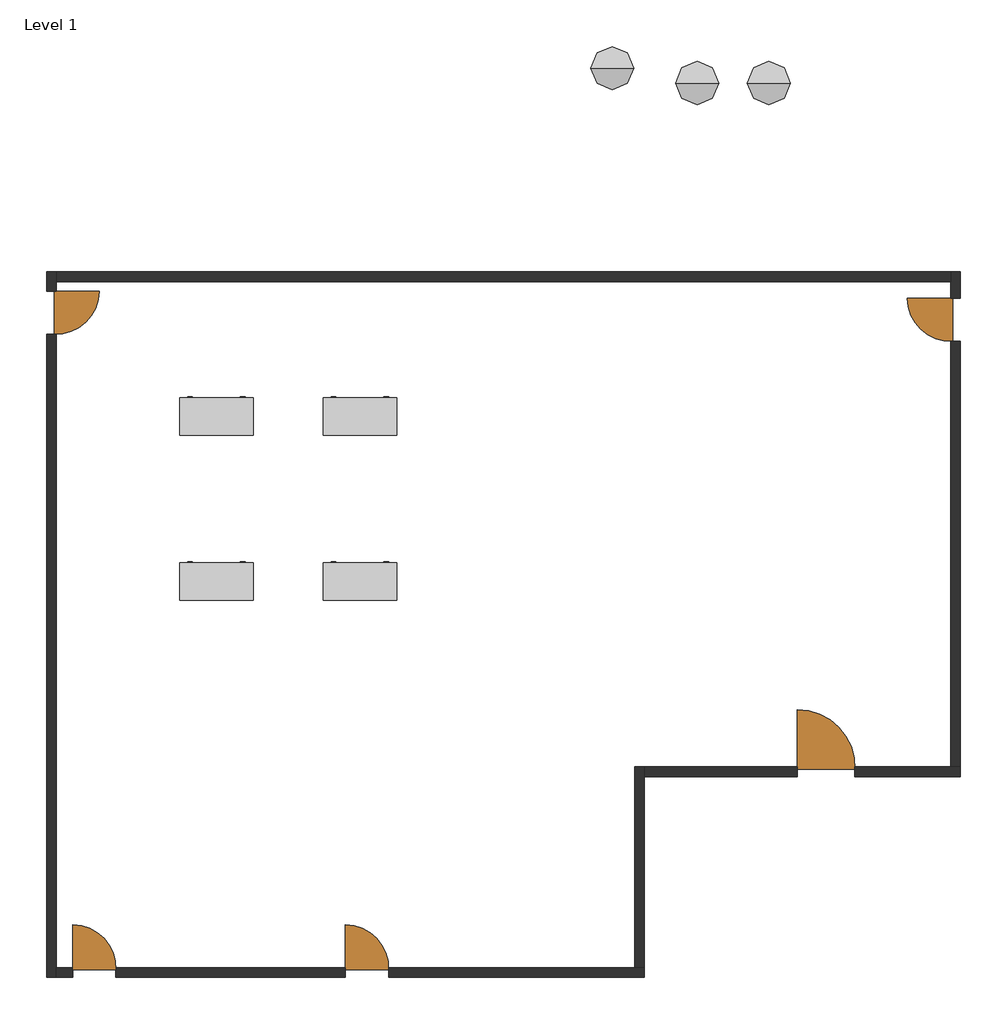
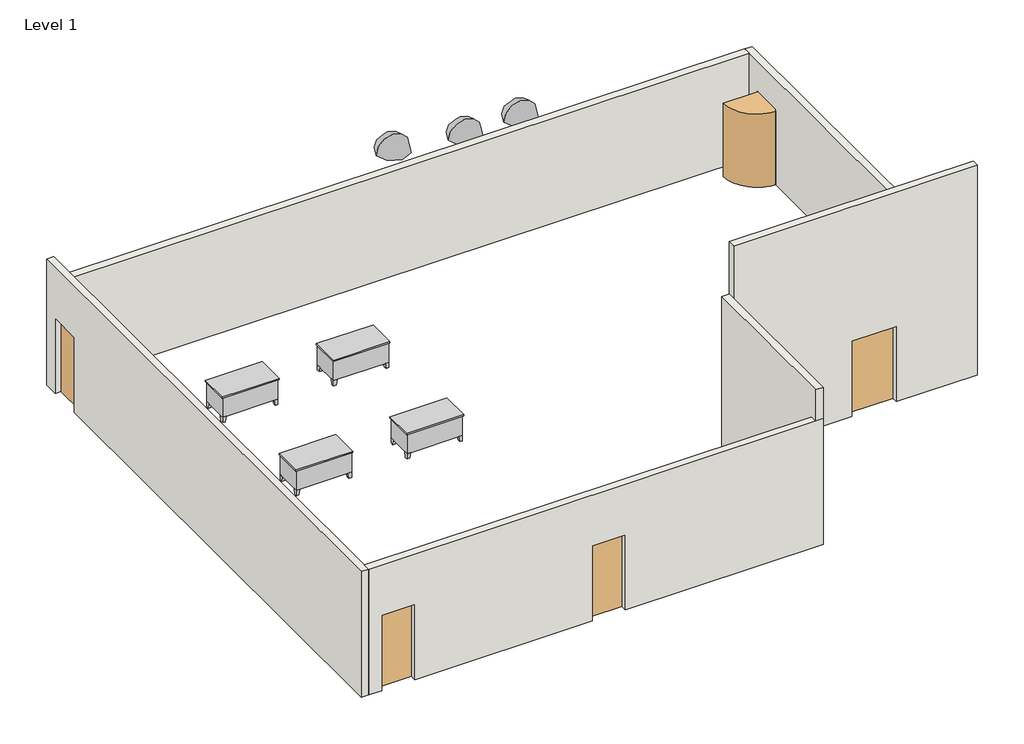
# One storey: 10 doors, 6 walls, 4 furniture elements, 3 geographic elements.
"""IFC4 building model written with IfcOpenShell, lengths in millimetres."""

import ifcopenshell
import ifcopenshell.guid

model = None  # the IFC model being written
_history = None  # IfcOwnerHistory: only IFC2X3 demands one
_inside = {}  # id of a spatial element -> (the spatial element, [elements in it])
_under = {}  # id of a project, library or spatial element -> (it, [spatial elements below it])
_declared = {}  # id of a project -> (the project, [libraries it declares])
_typed = {}  # id of a type object -> (the type object, [elements of that type])
_made_of = {}  # id of a material, layer set ... -> (it, [elements and type objects made of it])


def new_model(schema):
    """Start an empty IFC model of exactly this schema.

    Asked for "IFC4X3", IfcOpenShell would pick the latest addendum, in which some entities
    have other attributes; the version numbers below select the first issue.
    IFC2X3 requires an IfcOwnerHistory on every rooted entity: one is made here for all.
    """
    global model, _history
    if schema == "IFC4X3":
        model = ifcopenshell.file(schema_version=(4, 3, 0, 0))
    else:
        model = ifcopenshell.file(schema=schema)
    _inside.clear()
    _under.clear()
    _declared.clear()
    _typed.clear()
    _made_of.clear()
    _history = None
    if model.schema == "IFC2X3":
        org = make("IfcOrganization", Name="unknown")
        user = make(
            "IfcPersonAndOrganization",
            ThePerson=make("IfcPerson", FamilyName="unknown"),
            TheOrganization=org,
        )
        app = make(
            "IfcApplication",
            ApplicationDeveloper=org,
            Version="unknown",
            ApplicationFullName="unknown",
            ApplicationIdentifier="unknown",
        )
        _history = make(
            "IfcOwnerHistory",
            OwningUser=user,
            OwningApplication=app,
            ChangeAction="ADDED",
            CreationDate=0,
        )
    return model


def make(cls, **values):
    """One entity of the class cls with the attributes given. An attribute that is None is left unset."""
    return model.create_entity(
        cls, **{name: value for name, value in values.items() if value is not None}
    )


def rooted(cls, **values):
    """An entity with a GlobalId (a new one), such as an element, a storey or a relation."""
    return make(cls, GlobalId=ifcopenshell.guid.new(), OwnerHistory=_history, **values)


def si_unit(unit_type, name, prefix=None):
    """IfcSIUnit, for example si_unit("LENGTHUNIT", "METRE", prefix="MILLI")."""
    return make("IfcSIUnit", UnitType=unit_type, Prefix=prefix, Name=name)


def assignment(units):
    """IfcUnitAssignment: the units of a project."""
    return None if units is None else make("IfcUnitAssignment", Units=units)


def point(xyz):
    """IfcCartesianPoint."""
    return None if xyz is None else make("IfcCartesianPoint", Coordinates=xyz)


def direction(xyz):
    """IfcDirection."""
    return None if xyz is None else make("IfcDirection", DirectionRatios=xyz)


def frame(location, z_axis=None, x_axis=None):
    """IfcAxis2Placement3D, a coordinate frame: its origin and axes. An axis left out is left unset."""
    return make(
        "IfcAxis2Placement3D",
        Location=point(location),
        Axis=direction(z_axis),
        RefDirection=direction(x_axis),
    )


def frame_2d(location, x_axis=None):
    """IfcAxis2Placement2D, a coordinate frame in the plane: its origin and x axis."""
    return make(
        "IfcAxis2Placement2D", Location=point(location), RefDirection=direction(x_axis)
    )


def origin():
    """The frame at (0, 0, 0) with its axes left unset."""
    return frame((0.0, 0.0, 0.0))


def origin_with_axes():
    """The frame at (0, 0, 0) with the z axis (0, 0, 1) and the x axis (1, 0, 0) written out."""
    return frame((0.0, 0.0, 0.0), z_axis=(0.0, 0.0, 1.0), x_axis=(1.0, 0.0, 0.0))


def place(relative_to, where):
    """IfcLocalPlacement: puts the frame where relative to a parent placement (None: the world)."""
    return make(
        "IfcLocalPlacement", PlacementRelTo=relative_to, RelativePlacement=where
    )


def context(
    kind, dimensions, precision=None, world=None, true_north=None, identifier=None
):
    """IfcGeometricRepresentationContext, for example the 3D "Model" context."""
    return make(
        "IfcGeometricRepresentationContext",
        ContextIdentifier=identifier,
        ContextType=kind,
        CoordinateSpaceDimension=dimensions,
        Precision=precision,
        WorldCoordinateSystem=world,
        TrueNorth=true_north,
    )


def project(units=None, contexts=None):
    """IfcProject with its units and contexts."""
    return rooted(
        "IfcProject",
        Name="project",
        RepresentationContexts=contexts,
        UnitsInContext=assignment(units),
    )


def spatial(cls, under=None, at=None, **own):
    """A site, building, storey or space (cls), placed at a placement, below another one or the project."""
    s = rooted(cls, ObjectPlacement=at, **own)
    if under is not None:
        _under.setdefault(under.id(), (under, []))[1].append(s)
    return s


def polyline(points):
    """IfcPolyline through the points."""
    return make("IfcPolyline", Points=[point(p) for p in points])


def circle_curve(where, radius):
    """IfcCircle in the frame where."""
    return make("IfcCircle", Position=where, Radius=radius)


def ellipse_curve(where, semi_axis1, semi_axis2):
    """IfcEllipse in the frame where."""
    return make(
        "IfcEllipse", Position=where, SemiAxis1=semi_axis1, SemiAxis2=semi_axis2
    )


def trimmed(basis, trim1, trim2, sense, master):
    """IfcTrimmedCurve: the piece of a basis curve between two trims."""
    return make(
        "IfcTrimmedCurve",
        BasisCurve=basis,
        Trim1=trim1,
        Trim2=trim2,
        SenseAgreement=sense,
        MasterRepresentation=master,
    )


def segment(curve, same_sense, transition):
    """IfcCompositeCurveSegment."""
    return make(
        "IfcCompositeCurveSegment",
        Transition=transition,
        SameSense=same_sense,
        ParentCurve=curve,
    )


def composite_curve(segments, self_intersect=None):
    """IfcCompositeCurve: segments joined end to end."""
    return make("IfcCompositeCurve", Segments=segments, SelfIntersect=self_intersect)


def outline(outer, holes=None, kind="AREA"):
    """IfcArbitraryClosedProfileDef: a profile drawn as a closed curve; with holes, ...WithVoids."""
    if holes is None:
        return make("IfcArbitraryClosedProfileDef", ProfileType=kind, OuterCurve=outer)
    return make(
        "IfcArbitraryProfileDefWithVoids",
        ProfileType=kind,
        OuterCurve=outer,
        InnerCurves=holes,
    )


def extrude(swept, where, along, depth):
    """IfcExtrudedAreaSolid: the profile swept, set in the frame where, extruded along a direction by depth."""
    return make(
        "IfcExtrudedAreaSolid",
        SweptArea=swept,
        Position=where,
        ExtrudedDirection=direction(along),
        Depth=depth,
    )


def faces_of(points, faces, orient=None, outer=None):
    """IfcFace entities. A face is a list of loops; a loop is a list of indices into points, from 0.

    orient and outer hold one flag for each loop. By default every Orientation is true, the
    first loop of a face is its IfcFaceOuterBound and the others are IfcFaceBound.
    """
    made = []
    for i, loops in enumerate(faces):
        bounds = []
        for j, loop in enumerate(loops):
            is_outer = j == 0 if outer is None else outer[i][j]
            bounds.append(
                make(
                    "IfcFaceOuterBound" if is_outer else "IfcFaceBound",
                    Bound=make("IfcPolyLoop", Polygon=[points[k] for k in loop]),
                    Orientation=True if orient is None else orient[i][j],
                )
            )
        made.append(make("IfcFace", Bounds=bounds))
    return made


def faceted_brep(points, faces, orient=None, outer=None, voids=None):
    """IfcFacetedBrep: a solid bounded by flat faces; with voids (closed shells), ...WithVoids."""
    shared = [point(p) for p in points]
    hull = make("IfcClosedShell", CfsFaces=faces_of(shared, faces, orient, outer))
    if voids is None:
        return make("IfcFacetedBrep", Outer=hull)
    return make(
        "IfcFacetedBrepWithVoids",
        Outer=hull,
        Voids=[
            make(cls, CfsFaces=faces_of(shared, fs, o, b)) for cls, fs, o, b in voids
        ],
    )


def shape(context_of_items, identifier, shape_type, items):
    """IfcShapeRepresentation: the items that make up one representation, for example the "Body"."""
    return make(
        "IfcShapeRepresentation",
        ContextOfItems=context_of_items,
        RepresentationIdentifier=identifier,
        RepresentationType=shape_type,
        Items=items,
    )


def source(mapping_origin, context_of_items, identifier, shape_type, items):
    """IfcRepresentationMap: a shape defined once, which mapped items show again and again."""
    return make(
        "IfcRepresentationMap",
        MappingOrigin=mapping_origin,
        MappedRepresentation=shape(context_of_items, identifier, shape_type, items),
    )


def transform(
    local_origin,
    x_axis=None,
    y_axis=None,
    z_axis=None,
    scale=None,
    scale2=None,
    scale3=None,
    uniform=True,
):
    """IfcCartesianTransformationOperator3D, or its non-uniform kind. x_axis, y_axis, z_axis: its Axis1, 2, 3."""
    if uniform:
        return make(
            "IfcCartesianTransformationOperator3D",
            Axis1=direction(x_axis),
            Axis2=direction(y_axis),
            LocalOrigin=point(local_origin),
            Scale=scale,
            Axis3=direction(z_axis),
        )
    return make(
        "IfcCartesianTransformationOperator3DnonUniform",
        Axis1=direction(x_axis),
        Axis2=direction(y_axis),
        LocalOrigin=point(local_origin),
        Scale=scale,
        Axis3=direction(z_axis),
        Scale2=scale2,
        Scale3=scale3,
    )


def mapped(mapping_source, mapping_target):
    """IfcMappedItem: shows the shape of a source again, moved by a transform."""
    return make(
        "IfcMappedItem", MappingSource=mapping_source, MappingTarget=mapping_target
    )


def made_of(thing, what):
    """Note that an element or type object is made of a material, layer set ...; save() writes the relation."""
    if what is not None:
        _made_of.setdefault(what.id(), (what, []))[1].append(thing)
    return thing


def element(
    cls,
    number,
    at=None,
    inside=None,
    cuts=None,
    type_object=None,
    material=None,
    context=None,
    identifier="Body",
    shape_type=None,
    held_by="IfcProductDefinitionShape",
    body=None,
    shapes=None,
    **own,
):
    """One element of the class cls, such as IfcWall. Its Tag is "e" and its number.

    at: its placement. inside: the storey or other place that contains it. cuts: it is an
    opening in that element (IfcRelVoidsElement). A single representation is given by context,
    identifier, shape_type and body (its items); several are given by shapes. held_by: the class
    of the entity that holds the representations. save() writes the other relations.
    """
    e = rooted(cls, Tag="e%d" % number, ObjectPlacement=at, **own)
    if body is not None:
        shapes = [shape(context, identifier, shape_type, body)]
    if shapes is not None:
        e.Representation = make(held_by, Representations=shapes)
    if inside is not None:
        _inside.setdefault(inside.id(), (inside, []))[1].append(e)
    if cuts is not None:
        rooted(
            "IfcRelVoidsElement", RelatingBuildingElement=cuts, RelatedOpeningElement=e
        )
    if type_object is not None:
        _typed.setdefault(type_object.id(), (type_object, []))[1].append(e)
    return made_of(e, material)


def aggregate(whole, parts):
    """IfcRelAggregates: a whole, such as a stair, and the parts it consists of."""
    return rooted("IfcRelAggregates", RelatingObject=whole, RelatedObjects=parts)


def save(model, path):
    """Write the relations noted so far, then the file.

    IfcRelAggregates (storeys below a building ...), IfcRelContainedInSpatialStructure (elements
    in a storey), IfcRelDefinesByType, IfcRelAssociatesMaterial and IfcRelDeclares: one each for
    every whole, place, type object, material and project.
    """
    for whole, parts in _under.values():
        aggregate(whole, parts)
    for where, things in _inside.values():
        rooted(
            "IfcRelContainedInSpatialStructure",
            RelatedElements=things,
            RelatingStructure=where,
        )
    for kind, things in _typed.values():
        rooted("IfcRelDefinesByType", RelatedObjects=things, RelatingType=kind)
    for what, things in _made_of.values():
        rooted("IfcRelAssociatesMaterial", RelatedObjects=things, RelatingMaterial=what)
    for by, libraries in _declared.values():
        rooted("IfcRelDeclares", RelatingContext=by, RelatedDefinitions=libraries)
    model.write(path)


def plane_surface(at):
    """IfcPlane: the flat surface through the origin of the frame at, square to its z axis."""
    return make("IfcPlane", Position=at)


def revolved_surface(curve, axis_point, axis_direction):
    """IfcSurfaceOfRevolution: the curve turned about the line through axis_point along axis_direction."""
    return make(
        "IfcSurfaceOfRevolution",
        SweptCurve=make("IfcArbitraryOpenProfileDef", ProfileType="CURVE", Curve=curve),
        AxisPosition=make("IfcAxis1Placement", Location=point(axis_point), Axis=direction(axis_direction)),
    )


def advanced_brep(points, edges, surfaces, faces):
    """IfcAdvancedBrep: a solid bounded by faces that lie on surfaces and meet in shared edges.

    An edge is (start, end): straight between two places in points (the first is 0);
    or (start, end, curve); or (start, end, curve, False) where it runs against its curve.
    A face is (place in surfaces, loops), or (place, loops, False) where it looks against
    its surface's normal. A loop lists edges by number (the first is 1), with a minus sign
    where the edge is run from its end to its start. The first loop is the outer one.
    """
    corners = [point(p) for p in points]
    vertices = [make("IfcVertexPoint", VertexGeometry=c) for c in corners]
    made = []
    for start, end, *more in edges:
        made.append(
            make(
                "IfcEdgeCurve",
                EdgeStart=vertices[start],
                EdgeEnd=vertices[end],
                EdgeGeometry=more[0] if more else make("IfcPolyline", Points=[corners[start], corners[end]]),
                SameSense=more[1] if len(more) > 1 else True,
            )
        )
    hull = []
    for where, loops, *sense in faces:
        bounds = []
        for j, loop in enumerate(loops):
            ring = [make("IfcOrientedEdge", EdgeElement=made[abs(k) - 1], Orientation=k > 0) for k in loop]
            bounds.append(
                make(
                    "IfcFaceOuterBound" if j == 0 else "IfcFaceBound",
                    Bound=make("IfcEdgeLoop", EdgeList=ring),
                    Orientation=True,
                )
            )
        hull.append(make("IfcAdvancedFace", Bounds=bounds, FaceSurface=surfaces[where], SameSense=sense[0] if sense else True))
    return make("IfcAdvancedBrep", Outer=make("IfcClosedShell", CfsFaces=hull))


def door_partition_swing_single_wh_exterior_2_e724bc5e(model_context):
    return source(origin(), model_context, "Body", "SweptSolid", [
        extrude(outline(composite_curve([segment(polyline([(-438.8346798, 57.15), (-438.8346798, 101.6), (-438.8346798, 1016.0)]), True, "CONTINUOUS"), segment(trimmed(circle_curve(frame_2d((-438.8346798, 101.6)), 914.4), [point((-438.8346798, 1016.0))], [point((474.4842992, 57.15))], False, "CARTESIAN"), True, "CONTINUOUS"), segment(polyline([(474.4842992, 57.15), (-438.8346798, 57.15)]), True, "CONTINUOUS")], self_intersect=False)), origin_with_axes(), (0.0, 0.0, 1.0), 2133.6),
    ])


def door_partition_swing_single_wh_exterior_d8258ed9(model_context):
    return source(origin(), model_context, "Body", "SweptSolid", [
        extrude(outline(composite_curve([segment(polyline([(-438.8346798, -57.15), (474.4842992, -57.15)]), True, "CONTINUOUS"), segment(trimmed(circle_curve(frame_2d((-438.8346798, -101.6)), 914.4), [point((474.4842992, -57.15))], [point((-438.8346798, -1016.0))], False, "CARTESIAN"), True, "CONTINUOUS"), segment(polyline([(-438.8346798, -1016.0), (-438.8346798, -101.6), (-438.8346798, -57.15)]), True, "CONTINUOUS")], self_intersect=False)), origin_with_axes(), (0.0, 0.0, 1.0), 2133.6),
    ])


def door_partition_swing_single_wh_exterior_3_50c6eff6(model_context):
    return source(origin(), model_context, "Body", "SweptSolid", [
        extrude(outline(composite_curve([segment(polyline([(-591.2346798, 57.15), (-591.2346798, 101.6), (-591.2346798, 1320.8)]), True, "CONTINUOUS"), segment(trimmed(circle_curve(frame_2d((-591.2346798, 101.6)), 1219.2), [point((-591.2346798, 1320.8))], [point((627.1547643, 57.15))], False, "CARTESIAN"), True, "CONTINUOUS"), segment(polyline([(627.1547643, 57.15), (-591.2346798, 57.15)]), True, "CONTINUOUS")], self_intersect=False)), origin_with_axes(), (0.0, 0.0, 1.0), 2133.6),
    ])


def pnl_pf_pnl_pf_4_695aecbf(model_context):
    return source(origin(), model_context, "Body", "SweptSolid", [
        extrude(outline(polyline([(914.4, -44.45), (0.0, -44.45), (0.0, 0.0), (914.4, 0.0), (914.4, -44.45)])), origin_with_axes(), (0.0, 0.0, 1.0), 2133.6),
    ])


def pnl_pf_pnl_pf_4_30113026(model_context):
    return source(origin(), model_context, "Body", "SweptSolid", [
        extrude(outline(polyline([(914.4, 44.45), (914.4, 0.0), (0.0, 0.0), (0.0, 44.45), (914.4, 44.45)])), origin_with_axes(), (0.0, 0.0, 1.0), 2133.6),
    ])


def pnl_pf_pnl_pf_4_4e0c7a73(model_context):
    return source(origin(), model_context, "Body", "SweptSolid", [
        extrude(outline(polyline([(1219.2, -44.45), (0.0, -44.45), (0.0, 0.0), (1219.2, 0.0), (1219.2, -44.45)])), origin_with_axes(), (0.0, 0.0, 1.0), 2133.6),
    ])


def furniture_072f6425(model_context):
    return source(origin(), model_context, "Body", "SolidModel", [
        extrude(outline(polyline([(1504.95, 762.0), (1136.65, 762.0), (1136.65, 774.7), (1504.95, 774.7), (1504.95, 762.0)])), frame((0.0, 0.0, 603.25), z_axis=(0.0, 0.0, 1.0), x_axis=(1.0, 0.0, 0.0)), (0.0, 0.0, 1.0), 101.6),
        extrude(outline(polyline([(1504.95, 762.0), (1136.65, 762.0), (1136.65, 774.7), (1504.95, 774.7), (1504.95, 762.0)])), frame((0.0, 0.0, 171.45), z_axis=(0.0, 0.0, 1.0), x_axis=(1.0, 0.0, 0.0)), (0.0, 0.0, 1.0), 412.75),
        extrude(outline(polyline([(387.35, 762.0), (19.05, 762.0), (19.05, 774.7), (387.35, 774.7), (387.35, 762.0)])), frame((0.0, 0.0, 603.25), z_axis=(0.0, 0.0, 1.0), x_axis=(1.0, 0.0, 0.0)), (0.0, 0.0, 1.0), 101.6),
        extrude(outline(polyline([(387.35, 762.0), (19.05, 762.0), (19.05, 774.7), (387.35, 774.7), (387.35, 762.0)])), frame((0.0, 0.0, 171.45), z_axis=(0.0, 0.0, 1.0), x_axis=(1.0, 0.0, 0.0)), (0.0, 0.0, 1.0), 171.45),
        extrude(outline(polyline([(387.35, 762.0), (19.05, 762.0), (19.05, 774.7), (387.35, 774.7), (387.35, 762.0)])), frame((0.0, 0.0, 482.6), z_axis=(0.0, 0.0, 1.0), x_axis=(1.0, 0.0, 0.0)), (0.0, 0.0, 1.0), 101.6),
        extrude(outline(polyline([(387.35, 762.0), (19.05, 762.0), (19.05, 774.7), (387.35, 774.7), (387.35, 762.0)])), frame((0.0, 0.0, 361.95), z_axis=(0.0, 0.0, 1.0), x_axis=(1.0, 0.0, 0.0)), (0.0, 0.0, 1.0), 101.6),
        faceted_brep([(1422.4, 762.0, 152.4), (1422.4, 660.4, 152.4), (1524.0, 660.4, 152.4), (1524.0, 762.0, 152.4), (1447.8, 762.0, 0.0), (1524.0, 762.0, 0.0), (1524.0, 685.8, 0.0), (1447.8, 685.8, 0.0)], [[[0, 1, 2, 3]], [[4, 5, 6, 7]], [[4, 7, 1, 0]], [[7, 6, 2, 1]], [[6, 5, 3, 2]], [[5, 4, 0, 3]]]),
        faceted_brep([(1422.4, 0.0, 152.4), (1524.0, 0.0, 152.4), (1524.0, 101.6, 152.4), (1422.4, 101.6, 152.4), (1447.8, 0.0, 0.0), (1447.8, 76.2, 0.0), (1524.0, 76.2, 0.0), (1524.0, 0.0, 0.0)], [[[0, 1, 2, 3]], [[4, 5, 6, 7]], [[4, 7, 1, 0]], [[7, 6, 2, 1]], [[6, 5, 3, 2]], [[5, 4, 0, 3]]]),
        faceted_brep([(101.6, 0.0, 152.4), (101.6, 101.6, 152.4), (0.0, 101.6, 152.4), (0.0, 0.0, 152.4), (76.2, 0.0, 0.0), (0.0, 0.0, 0.0), (0.0, 76.2, 0.0), (76.2, 76.2, 0.0)], [[[0, 1, 2, 3]], [[4, 5, 6, 7]], [[4, 7, 1, 0]], [[7, 6, 2, 1]], [[6, 5, 3, 2]], [[5, 4, 0, 3]]]),
        faceted_brep([(101.6, 762.0, 152.4), (0.0, 762.0, 152.4), (0.0, 660.4, 152.4), (101.6, 660.4, 152.4), (76.2, 762.0, 0.0), (76.2, 685.8, 0.0), (0.0, 685.8, 0.0), (0.0, 762.0, 0.0)], [[[0, 1, 2, 3]], [[4, 5, 6, 7]], [[4, 7, 1, 0]], [[7, 6, 2, 1]], [[6, 5, 3, 2]], [[5, 4, 0, 3]]]),
        extrude(outline(polyline([(1543.05, 781.05), (1543.05, -19.05), (-19.05, -19.05), (-19.05, 781.05), (1543.05, 781.05)])), frame((0.0, 0.0, 723.9), z_axis=(0.0, 0.0, 1.0), x_axis=(1.0, 0.0, 0.0)), (0.0, 0.0, 1.0), 38.1),
        extrude(outline(polyline([(406.4, 762.0), (406.4, 50.8), (1117.6, 50.8), (1117.6, 762.0), (1524.0, 762.0), (1524.0, 0.0), (0.0, 0.0), (0.0, 762.0), (406.4, 762.0)])), frame((0.0, 0.0, 152.4), z_axis=(0.0, 0.0, 1.0), x_axis=(1.0, 0.0, 0.0)), (0.0, 0.0, 1.0), 571.5),
        faceted_brep([(1365.25, 774.7, 546.1), (1365.25, 774.7, 533.4), (1371.6, 774.7, 533.4), (1371.6, 774.7, 546.1), (1365.25, 793.75, 546.1), (1365.25, 793.75, 533.4), (1371.6, 800.1, 533.4), (1371.6, 800.1, 546.1), (1276.35, 793.75, 546.1), (1276.35, 793.75, 533.4), (1270.0, 800.1, 533.4), (1270.0, 800.1, 546.1), (1276.35, 774.7, 546.1), (1270.0, 774.7, 546.1), (1270.0, 774.7, 533.4), (1276.35, 774.7, 533.4)], [[[0, 1, 2, 3]], [[1, 0, 4, 5]], [[2, 1, 5, 6]], [[3, 2, 6, 7]], [[0, 3, 7, 4]], [[5, 4, 8, 9]], [[6, 5, 9, 10]], [[7, 6, 10, 11]], [[4, 7, 11, 8]], [[12, 13, 14, 15]], [[9, 8, 12, 15]], [[10, 9, 15, 14]], [[11, 10, 14, 13]], [[8, 11, 13, 12]]]),
        faceted_brep([(1365.25, 774.7, 666.75), (1365.25, 774.7, 654.05), (1371.6, 774.7, 654.05), (1371.6, 774.7, 666.75), (1365.25, 793.75, 666.75), (1365.25, 793.75, 654.05), (1371.6, 800.1, 654.05), (1371.6, 800.1, 666.75), (1276.35, 793.75, 666.75), (1276.35, 793.75, 654.05), (1270.0, 800.1, 654.05), (1270.0, 800.1, 666.75), (1276.35, 774.7, 666.75), (1270.0, 774.7, 666.75), (1270.0, 774.7, 654.05), (1276.35, 774.7, 654.05)], [[[0, 1, 2, 3]], [[1, 0, 4, 5]], [[2, 1, 5, 6]], [[3, 2, 6, 7]], [[0, 3, 7, 4]], [[5, 4, 8, 9]], [[6, 5, 9, 10]], [[7, 6, 10, 11]], [[4, 7, 11, 8]], [[12, 13, 14, 15]], [[9, 8, 12, 15]], [[10, 9, 15, 14]], [[11, 10, 14, 13]], [[8, 11, 13, 12]]]),
        faceted_brep([(158.75, 774.7, 304.8), (152.4, 774.7, 304.8), (152.4, 774.7, 292.1), (158.75, 774.7, 292.1), (158.75, 793.75, 304.8), (152.4, 800.1, 304.8), (152.4, 800.1, 292.1), (158.75, 793.75, 292.1), (247.65, 793.75, 304.8), (254.0, 800.1, 304.8), (254.0, 800.1, 292.1), (247.65, 793.75, 292.1), (247.65, 774.7, 304.8), (247.65, 774.7, 292.1), (254.0, 774.7, 292.1), (254.0, 774.7, 304.8)], [[[0, 1, 2, 3]], [[1, 0, 4, 5]], [[2, 1, 5, 6]], [[3, 2, 6, 7]], [[0, 3, 7, 4]], [[5, 4, 8, 9]], [[6, 5, 9, 10]], [[7, 6, 10, 11]], [[4, 7, 11, 8]], [[12, 13, 14, 15]], [[9, 8, 12, 15]], [[10, 9, 15, 14]], [[11, 10, 14, 13]], [[8, 11, 13, 12]]]),
        faceted_brep([(158.75, 774.7, 425.45), (152.4, 774.7, 425.45), (152.4, 774.7, 412.75), (158.75, 774.7, 412.75), (158.75, 793.75, 425.45), (152.4, 800.1, 425.45), (152.4, 800.1, 412.75), (158.75, 793.75, 412.75), (247.65, 793.75, 425.45), (254.0, 800.1, 425.45), (254.0, 800.1, 412.75), (247.65, 793.75, 412.75), (247.65, 774.7, 425.45), (247.65, 774.7, 412.75), (254.0, 774.7, 412.75), (254.0, 774.7, 425.45)], [[[0, 1, 2, 3]], [[1, 0, 4, 5]], [[2, 1, 5, 6]], [[3, 2, 6, 7]], [[0, 3, 7, 4]], [[5, 4, 8, 9]], [[6, 5, 9, 10]], [[7, 6, 10, 11]], [[4, 7, 11, 8]], [[12, 13, 14, 15]], [[9, 8, 12, 15]], [[10, 9, 15, 14]], [[11, 10, 14, 13]], [[8, 11, 13, 12]]]),
        faceted_brep([(158.75, 774.7, 546.1), (152.4, 774.7, 546.1), (152.4, 774.7, 533.4), (158.75, 774.7, 533.4), (158.75, 793.75, 546.1), (152.4, 800.1, 546.1), (152.4, 800.1, 533.4), (158.75, 793.75, 533.4), (247.65, 793.75, 546.1), (254.0, 800.1, 546.1), (254.0, 800.1, 533.4), (247.65, 793.75, 533.4), (247.65, 774.7, 546.1), (247.65, 774.7, 533.4), (254.0, 774.7, 533.4), (254.0, 774.7, 546.1)], [[[0, 1, 2, 3]], [[1, 0, 4, 5]], [[2, 1, 5, 6]], [[3, 2, 6, 7]], [[0, 3, 7, 4]], [[5, 4, 8, 9]], [[6, 5, 9, 10]], [[7, 6, 10, 11]], [[4, 7, 11, 8]], [[12, 13, 14, 15]], [[9, 8, 12, 15]], [[10, 9, 15, 14]], [[11, 10, 14, 13]], [[8, 11, 13, 12]]]),
        faceted_brep([(158.75, 774.7, 666.75), (152.4, 774.7, 666.75), (152.4, 774.7, 654.05), (158.75, 774.7, 654.05), (158.75, 793.75, 666.75), (152.4, 800.1, 666.75), (152.4, 800.1, 654.05), (158.75, 793.75, 654.05), (247.65, 793.75, 666.75), (254.0, 800.1, 666.75), (254.0, 800.1, 654.05), (247.65, 793.75, 654.05), (247.65, 774.7, 666.75), (247.65, 774.7, 654.05), (254.0, 774.7, 654.05), (254.0, 774.7, 666.75)], [[[0, 1, 2, 3]], [[1, 0, 4, 5]], [[2, 1, 5, 6]], [[3, 2, 6, 7]], [[0, 3, 7, 4]], [[5, 4, 8, 9]], [[6, 5, 9, 10]], [[7, 6, 10, 11]], [[4, 7, 11, 8]], [[12, 13, 14, 15]], [[9, 8, 12, 15]], [[10, 9, 15, 14]], [[11, 10, 14, 13]], [[8, 11, 13, 12]]]),
    ])


def geographic_element_e8c3bac9(model_context):
    return source(origin(), model_context, "Body", "AdvancedBrep", [
        advanced_brep(
        [(-457.2, 0.0, 0.0), (457.2, 0.0, 0.0), (0.0, 0.0, 0.0), (0.0, 0.0, 457.2)],
        [
            (0, 1, circle_curve(frame((0.0, 0.0, 0.0), z_axis=(0.0, 0.0, -1.0), x_axis=(1.0, 0.0, 0.0)), 457.2)),
            (1, 2),
            (2, 0),
            (1, 0, circle_curve(frame((0.0, 0.0, 0.0), z_axis=(0.0, 0.0, -1.0), x_axis=(1.0, 0.0, 0.0)), 457.2)),
            (3, 1, circle_curve(frame((0.0, 0.0, 0.0), z_axis=(0.0, 1.0, 0.0), x_axis=(1.0, 0.0, 0.0)), 457.2)),
            (0, 3, circle_curve(frame((0.0, 0.0, 0.0), z_axis=(0.0, 1.0, 0.0), x_axis=(-1.0, 0.0, 0.0)), 457.2)),
        ],
        [
            plane_surface(frame((0.0, 0.0, 0.0), z_axis=(0.0, 0.0, -1.0), x_axis=(1.0, 0.0, 0.0))),
            revolved_surface(trimmed(ellipse_curve(frame((0.0, 0.0, 0.0), z_axis=(0.0, -1.0, 0.0), x_axis=(1.0, 0.0, 0.0)), 457.2, 457.2), [point((457.2, 0.0, 0.0))], [point((0.0, 0.0, 457.2))], True, "CARTESIAN"), (0.0, 0.0, 0.0), (0.0, 0.0, 1.0)),
        ],
        [
            (0, [[1, 2, 3]]),
            (0, [[4, -3, -2]]),
            (1, [[5, -1, 6]]),
            (1, [[-6, -4, -5]]),
        ],
    ),
    ])


model = new_model("IFC4")

# Units and contexts
model_context = context("Model", 3, world=origin())
ifc_project = project(units=[si_unit("LENGTHUNIT", "METRE", prefix="MILLI")], contexts=[model_context])

# Site, building, storey
site = spatial("IfcSite", under=ifc_project)
building = spatial("IfcBuilding", under=site)
storey = spatial("IfcBuildingStorey", under=building, Name="Level 1", Elevation=0.0)

# Doors
placement = place(None, origin())
door_partition_swing_single_wh_exterior_2_shape = door_partition_swing_single_wh_exterior_2_e724bc5e(model_context)
element("IfcDoor", 1, ObjectType="Door_Partition_Swing_Single_WH : Exterior", at=placement, inside=storey, context=model_context, shape_type="MappedRepresentation", body=[
    mapped(door_partition_swing_single_wh_exterior_2_shape, transform((-13779.5019194, 8037.8849511, 0.0), x_axis=(0.0, -1.0, 0.0), y_axis=(1.0, 0.0, 0.0), z_axis=(0.0, 0.0, 1.0))),
])
element("IfcDoor", 2, ObjectType="Door_Partition_Swing_Single_WH : Exterior", at=placement, inside=storey, context=model_context, shape_type="MappedRepresentation", body=[
    mapped(door_partition_swing_single_wh_exterior_2_shape, transform((-12883.4672395, -6001.280369, 0.0), x_axis=(1.0, 0.0, 0.0), y_axis=(0.0, 1.0, 0.0), z_axis=(0.0, 0.0, 1.0))),
])
door_partition_swing_single_wh_exterior_shape = door_partition_swing_single_wh_exterior_d8258ed9(model_context)
element("IfcDoor", 3, ObjectType="Door_Partition_Swing_Single_WH : Exterior", at=placement, inside=storey, context=model_context, shape_type="MappedRepresentation", body=[
    mapped(door_partition_swing_single_wh_exterior_shape, transform((5422.8980806, 7885.4849511, 0.0), x_axis=(0.0, -1.0, 0.0), y_axis=(1.0, 0.0, 0.0), z_axis=(0.0, 0.0, 1.0))),
])
element("IfcDoor", 4, ObjectType="Door_Partition_Swing_Single_WH : Exterior 2", at=placement, inside=storey, context=model_context, shape_type="MappedRepresentation", body=[
    mapped(door_partition_swing_single_wh_exterior_2_shape, transform((-7092.2672395, -6001.280369, 0.0), x_axis=(1.0, 0.0, 0.0), y_axis=(0.0, 1.0, 0.0), z_axis=(0.0, 0.0, 1.0))),
])
door_partition_swing_single_wh_exterior_3_shape = door_partition_swing_single_wh_exterior_3_50c6eff6(model_context)
element("IfcDoor", 5, ObjectType="Door_Partition_Swing_Single_WH : Exterior 3", at=placement, inside=storey, context=model_context, shape_type="MappedRepresentation", body=[
    mapped(door_partition_swing_single_wh_exterior_3_shape, transform((2661.3327605, -1734.080369, 0.0), x_axis=(1.0, 0.0, 0.0), y_axis=(0.0, 1.0, 0.0), z_axis=(0.0, 0.0, 1.0))),
])
pnl_pf_pnl_pf_4_shape = pnl_pf_pnl_pf_4_695aecbf(model_context)
element("IfcDoor", 6, ObjectType="Pnl_PF : Pnl_PF 4", at=placement, inside=storey, context=model_context, shape_type="MappedRepresentation", body=[
    mapped(pnl_pf_pnl_pf_4_shape, transform((-7531.1019194, -5899.680369, 0.0), x_axis=(1.0, 0.0, 0.0), y_axis=(0.0, 1.0, 0.0), z_axis=(0.0, 0.0, 1.0))),
])
element("IfcDoor", 7, ObjectType="Pnl_PF : Pnl_PF 4", at=placement, inside=storey, context=model_context, shape_type="MappedRepresentation", body=[
    mapped(pnl_pf_pnl_pf_4_shape, transform((-13322.3019194, -5899.680369, 0.0), x_axis=(1.0, 0.0, 0.0), y_axis=(0.0, 1.0, 0.0), z_axis=(0.0, 0.0, 1.0))),
])
element("IfcDoor", 8, ObjectType="Pnl_PF : Pnl_PF 4", at=placement, inside=storey, context=model_context, shape_type="MappedRepresentation", body=[
    mapped(pnl_pf_pnl_pf_4_shape, transform((-13677.9019194, 8476.719631, 0.0), x_axis=(0.0, -1.0, 0.0), y_axis=(1.0, 0.0, 0.0), z_axis=(0.0, 0.0, 1.0))),
])
pnl_pf_pnl_pf_4_2_shape = pnl_pf_pnl_pf_4_30113026(model_context)
element("IfcDoor", 9, ObjectType="Pnl_PF : Pnl_PF 4", at=placement, inside=storey, context=model_context, shape_type="MappedRepresentation", body=[
    mapped(pnl_pf_pnl_pf_4_2_shape, transform((5321.2980806, 8324.319631, 0.0), x_axis=(0.0, -1.0, 0.0), y_axis=(1.0, 0.0, 0.0), z_axis=(0.0, 0.0, 1.0))),
])
pnl_pf_pnl_pf_4_3_shape = pnl_pf_pnl_pf_4_4e0c7a73(model_context)
element("IfcDoor", 10, ObjectType="Pnl_PF : Pnl_PF 4", at=placement, inside=storey, context=model_context, shape_type="MappedRepresentation", body=[
    mapped(pnl_pf_pnl_pf_4_3_shape, transform((2070.0980806, -1632.480369, 0.0), x_axis=(1.0, 0.0, 0.0), y_axis=(0.0, 1.0, 0.0), z_axis=(0.0, 0.0, 1.0))),
])

# Furniture
furniture_shape = furniture_072f6425(model_context)
element("IfcFurniture", 11, ObjectType="Desk : 60\" x 30\"", at=placement, inside=storey, context=model_context, shape_type="MappedRepresentation", body=[
    mapped(furniture_shape, transform((-11036.3019194, 5428.719631, 0.0), x_axis=(1.0, 0.0, 0.0), y_axis=(0.0, 1.0, 0.0), z_axis=(0.0, 0.0, 1.0))),
])
element("IfcFurniture", 12, ObjectType="Desk : 60\" x 30\"", at=placement, inside=storey, context=model_context, shape_type="MappedRepresentation", body=[
    mapped(furniture_shape, transform((-11036.3019194, 1923.519631, 0.0), x_axis=(1.0, 0.0, 0.0), y_axis=(0.0, 1.0, 0.0), z_axis=(0.0, 0.0, 1.0))),
])
element("IfcFurniture", 13, ObjectType="Desk : 60\" x 30\"", at=placement, inside=storey, context=model_context, shape_type="MappedRepresentation", body=[
    mapped(furniture_shape, transform((-7988.3019194, 5428.719631, 0.0), x_axis=(1.0, 0.0, 0.0), y_axis=(0.0, 1.0, 0.0), z_axis=(0.0, 0.0, 1.0))),
])
element("IfcFurniture", 14, ObjectType="Desk : 60\" x 30\"", at=placement, inside=storey, context=model_context, shape_type="MappedRepresentation", body=[
    mapped(furniture_shape, transform((-7988.3019194, 1923.519631, 0.0), x_axis=(1.0, 0.0, 0.0), y_axis=(0.0, 1.0, 0.0), z_axis=(0.0, 0.0, 1.0))),
])

# Geographic elements
geographic_element_shape = geographic_element_e8c3bac9(model_context)
element("IfcGeographicElement", 15, ObjectType="Shubbery : Shubbery", at=placement, inside=storey, context=model_context, shape_type="MappedRepresentation", body=[
    mapped(geographic_element_shape, transform((1460.4980806, 12896.319631, 0.0), x_axis=(1.0, 0.0, 0.0), y_axis=(0.0, 1.0, 0.0), z_axis=(0.0, 0.0, 1.0))),
])
element("IfcGeographicElement", 16, ObjectType="Shubbery : Shubbery", at=placement, inside=storey, context=model_context, shape_type="MappedRepresentation", body=[
    mapped(geographic_element_shape, transform((-63.5019194, 12896.319631, 0.0), x_axis=(1.0, 0.0, 0.0), y_axis=(0.0, 1.0, 0.0), z_axis=(0.0, 0.0, 1.0))),
])
element("IfcGeographicElement", 17, ObjectType="Shubbery : Shubbery", at=placement, inside=storey, context=model_context, shape_type="MappedRepresentation", body=[
    mapped(geographic_element_shape, transform((-1864.5183381, 13213.8874183, 0.0), x_axis=(1.0, 0.0, 0.0), y_axis=(0.0, 1.0, 0.0), z_axis=(0.0, 0.0, 1.0))),
])

# Walls
element("IfcWall", 18, ObjectType="Generic - 8\"", at=placement, inside=storey, context=model_context, shape_type="Brep", body=[
    faceted_brep([(-13677.9019194, -6102.880369, 0.0), (-13677.9019194, -5899.680369, 0.0), (-13677.9019194, 7562.319631, 0.0), (-13677.9019194, 7562.319631, 2184.4), (-13677.9019194, 8476.719631, 2184.4), (-13677.9019194, 8476.719631, 0.0), (-13677.9019194, 8679.919631, 0.0), (-13677.9019194, 8883.119631, 0.0), (-13677.9019194, 8883.119631, 3048.0), (-13677.9019194, 8883.119631, 3657.6), (-13677.9019194, -5899.680369, 3657.6), (-13677.9019194, -6102.880369, 3657.6), (-13881.1019194, 7562.319631, 2184.4), (-13881.1019194, 7562.319631, 0.0), (-13881.1019194, -6102.880369, 0.0), (-13881.1019194, -6102.880369, 3657.6), (-13881.1019194, 8883.119631, 3657.6), (-13881.1019194, 8883.119631, 0.0), (-13881.1019194, 8476.719631, 0.0), (-13881.1019194, 8476.719631, 2184.4)], [[[0, 1, 2, 3, 4, 5, 6, 7, 8, 9, 10, 11]], [[12, 13, 14, 15, 16, 17, 18, 19]], [[18, 17, 7, 6, 5]], [[14, 13, 2, 1, 0]], [[11, 10, 9, 16, 15]], [[0, 11, 15, 14]], [[7, 17, 16, 9, 8]], [[5, 4, 19, 18]], [[3, 2, 13, 12]], [[4, 3, 12, 19]]]),
])
element("IfcWall", 19, ObjectType="Generic - 8\"", at=placement, inside=storey, context=model_context, shape_type="SweptSolid", body=[
    extrude(outline(polyline([(5321.2980806, 8679.919631), (-13677.9019194, 8679.919631), (-13677.9019194, 8883.119631), (5321.2980806, 8883.119631), (5321.2980806, 8679.919631)])), origin_with_axes(), (0.0, 0.0, 1.0), 3048.0),
])
element("IfcWall", 20, ObjectType="Generic - 8\"", at=placement, inside=storey, context=model_context, shape_type="Brep", body=[
    faceted_brep([(-12407.9019194, -6102.880369, 2184.4), (-12407.9019194, -6102.880369, 0.0), (-7531.1019194, -6102.880369, 0.0), (-7531.1019194, -6102.880369, 2184.4), (-6616.7019194, -6102.880369, 2184.4), (-6616.7019194, -6102.880369, 0.0), (-1181.1019194, -6102.880369, 0.0), (-1181.1019194, -6102.880369, 3657.6), (-1384.3019194, -6102.880369, 3657.6), (-13677.9019194, -6102.880369, 3657.6), (-13677.9019194, -6102.880369, 0.0), (-13322.3019194, -6102.880369, 0.0), (-13322.3019194, -6102.880369, 2184.4), (-7531.1019194, -5899.680369, 0.0), (-12407.9019194, -5899.680369, 0.0), (-12407.9019194, -5899.680369, 2184.4), (-13322.3019194, -5899.680369, 2184.4), (-13322.3019194, -5899.680369, 0.0), (-13677.9019194, -5899.680369, 0.0), (-13677.9019194, -5899.680369, 3657.6), (-1384.3019194, -5899.680369, 3657.6), (-1181.1019194, -5899.680369, 3657.6), (-1181.1019194, -5899.680369, 0.0), (-1384.3019194, -5899.680369, 0.0), (-6616.7019194, -5899.680369, 0.0), (-6616.7019194, -5899.680369, 2184.4), (-7531.1019194, -5899.680369, 2184.4)], [[[0, 1, 2, 3, 4, 5, 6, 7, 8, 9, 10, 11, 12]], [[13, 14, 15, 16, 17, 18, 19, 20, 21, 22, 23, 24, 25, 26]], [[6, 5, 24, 23, 22]], [[11, 10, 18, 17]], [[2, 1, 14, 13]], [[9, 8, 7, 21, 20, 19]], [[10, 9, 19, 18]], [[7, 6, 22, 21]], [[13, 26, 3, 2]], [[25, 24, 5, 4]], [[26, 25, 4, 3]], [[17, 16, 12, 11]], [[15, 14, 1, 0]], [[16, 15, 0, 12]]]),
])
element("IfcWall", 21, ObjectType="Generic - 8\"", at=placement, inside=storey, context=model_context, shape_type="Brep", body=[
    faceted_brep([(-1181.1019194, -5899.680369, 0.0), (-1181.1019194, -1835.680369, 0.0), (-1181.1019194, -1632.480369, 0.0), (-1181.1019194, -1632.480369, 4572.0), (-1181.1019194, -6102.880369, 4572.0), (-1181.1019194, -6102.880369, 3657.6), (-1181.1019194, -5899.680369, 3657.6), (-1384.3019194, -5899.680369, 0.0), (-1384.3019194, -5899.680369, 3657.6), (-1384.3019194, -6102.880369, 3657.6), (-1384.3019194, -6102.880369, 4572.0), (-1384.3019194, -1632.480369, 4572.0), (-1384.3019194, -1632.480369, 0.0)], [[[0, 1, 2, 3, 4, 5, 6]], [[7, 8, 9, 10, 11, 12]], [[2, 1, 0, 7, 12]], [[4, 3, 11, 10]], [[3, 2, 12, 11]], [[5, 9, 8, 6]], [[0, 6, 8, 7]], [[5, 4, 10, 9]]]),
])
element("IfcWall", 22, ObjectType="Generic - 8\"", at=placement, inside=storey, context=model_context, shape_type="Brep", body=[
    faceted_brep([(3289.2980806, -1835.680369, 2184.4), (3289.2980806, -1835.680369, 0.0), (5524.4980806, -1835.680369, 0.0), (5524.4980806, -1835.680369, 6096.0), (-1181.1019194, -1835.680369, 6096.0), (-1181.1019194, -1835.680369, 0.0), (2070.0980806, -1835.680369, 0.0), (2070.0980806, -1835.680369, 2184.4), (5524.4980806, -1632.480369, 0.0), (5321.2980806, -1632.480369, 0.0), (3289.2980806, -1632.480369, 0.0), (3289.2980806, -1632.480369, 2184.4), (2070.0980806, -1632.480369, 2184.4), (2070.0980806, -1632.480369, 0.0), (-1181.1019194, -1632.480369, 0.0), (-1181.1019194, -1632.480369, 4572.0), (-1181.1019194, -1632.480369, 6096.0), (5524.4980806, -1632.480369, 6096.0), (5524.4980806, -1632.480369, 3048.0)], [[[0, 1, 2, 3, 4, 5, 6, 7]], [[8, 9, 10, 11, 12, 13, 14, 15, 16, 17, 18]], [[6, 5, 14, 13]], [[2, 1, 10, 9, 8]], [[4, 3, 17, 16]], [[5, 4, 16, 15, 14]], [[3, 2, 8, 18, 17]], [[13, 12, 7, 6]], [[11, 10, 1, 0]], [[12, 11, 0, 7]]]),
])
element("IfcWall", 23, ObjectType="Generic - 8\"", at=placement, inside=storey, context=model_context, shape_type="Brep", body=[
    faceted_brep([(5524.4980806, -1632.480369, 0.0), (5524.4980806, 7409.919631, 0.0), (5524.4980806, 7409.919631, 2184.4), (5524.4980806, 8324.319631, 2184.4), (5524.4980806, 8324.319631, 0.0), (5524.4980806, 8883.119631, 0.0), (5524.4980806, 8883.119631, 3048.0), (5524.4980806, -1632.480369, 3048.0), (5321.2980806, 7409.919631, 2184.4), (5321.2980806, 7409.919631, 0.0), (5321.2980806, -1632.480369, 0.0), (5321.2980806, -1632.480369, 3048.0), (5321.2980806, 8679.919631, 3048.0), (5321.2980806, 8883.119631, 3048.0), (5321.2980806, 8883.119631, 0.0), (5321.2980806, 8679.919631, 0.0), (5321.2980806, 8324.319631, 0.0), (5321.2980806, 8324.319631, 2184.4)], [[[0, 1, 2, 3, 4, 5, 6, 7]], [[8, 9, 10, 11, 12, 13, 14, 15, 16, 17]], [[10, 9, 1, 0]], [[16, 15, 14, 5, 4]], [[7, 6, 13, 12, 11]], [[0, 7, 11, 10]], [[6, 5, 14, 13]], [[4, 3, 17, 16]], [[2, 1, 9, 8]], [[3, 2, 8, 17]]]),
])

save(model, "model.ifc")
